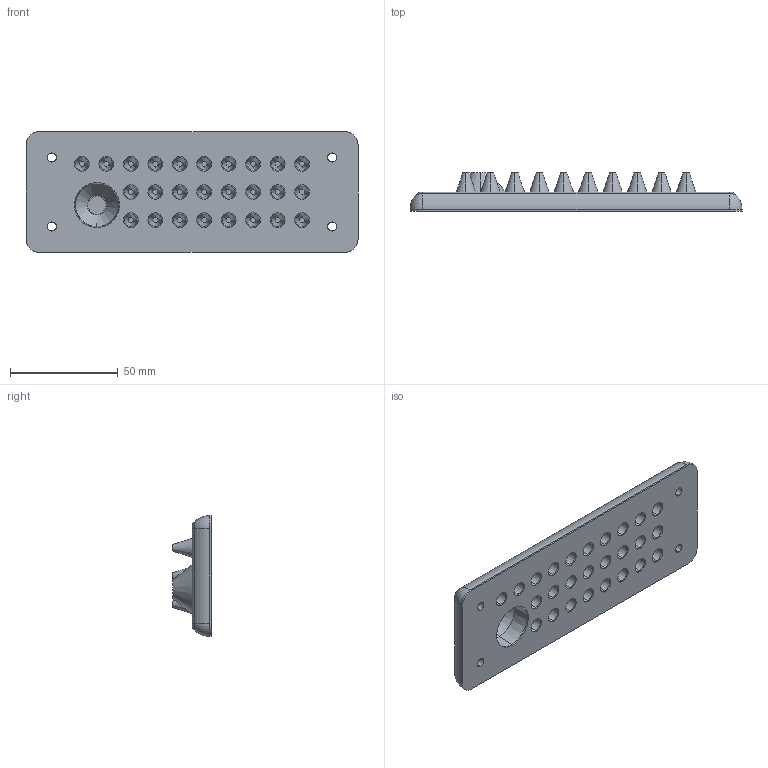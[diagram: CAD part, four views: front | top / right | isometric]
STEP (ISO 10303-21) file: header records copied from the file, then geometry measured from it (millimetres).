
FILE_DESCRIPTION (( 'STEP AP203' ), '1' );
FILE_NAME ('106604.STEP', '2016-02-15T10:38:38', ( '' ), ( '' ), 'SwSTEP 2.0', 'SolidWorks 2016', '' );
FILE_SCHEMA (( 'CONFIG_CONTROL_DESIGN' ));
Length unit declared in the file: millimetre
Products named in the file (1): 106604
Bounding box: 154 x 17.75 x 56 mm (x, y, z)
Volume: 63033.9 mm3; surface area: 41856.1 mm2
Topology: 40 solids, 158 shells, 1892 faces, 4422 edges, 2890 vertices
Faces by surface type: plane 1209, cylinder 461, cone 198, torus 16, bspline 8
Entity records: 53775 total; most frequent: CARTESIAN_POINT 12237, ORIENTED_EDGE 8844, DIRECTION 8135, EDGE_CURVE 4422, VERTEX_POINT 2890, LINE 2749, VECTOR 2749, AXIS2_PLACEMENT_3D 2693
